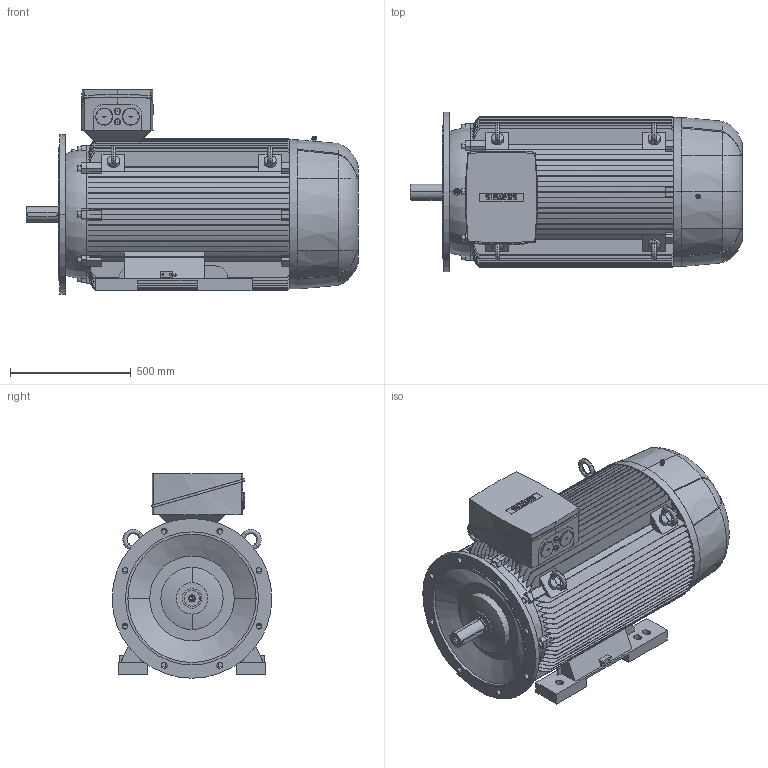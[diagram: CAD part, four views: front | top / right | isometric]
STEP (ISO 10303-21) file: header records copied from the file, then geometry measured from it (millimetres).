
FILE_DESCRIPTION(('STEP AP214'),'1');
FILE_NAME('cctmp_98B9EE92-E4A0-41F4-ACDE-74E27DCC231B_2021_11_16_21_19_40_150..stp','2021-11-16T20:19:41',('SIEMENS A&D'),('CADClick - www.CADClick.com'),'Spatial InterOp 3D',' ','unknown authorization');
FILE_SCHEMA(('AUTOMOTIVE_DESIGN'));
Length unit declared in the file: millimetre
Products named in the file (1): 1
Bounding box: 1372 x 660 x 845 mm (x, y, z)
Volume: 317384230 mm3; surface area: 9978069.5 mm2
Topology: 7 solids, 7 shells, 1403 faces, 3978 edges, 2617 vertices
Faces by surface type: plane 884, cylinder 301, torus 190, cone 28
Entity records: 65800 total; most frequent: CARTESIAN_POINT 18139, ORIENTED_EDGE 7928, DIRECTION 7313, EDGE_CURVE 3964, VERTEX_POINT 2617, AXIS2_PLACEMENT_3D 2502, LINE 2309, VECTOR 2309
